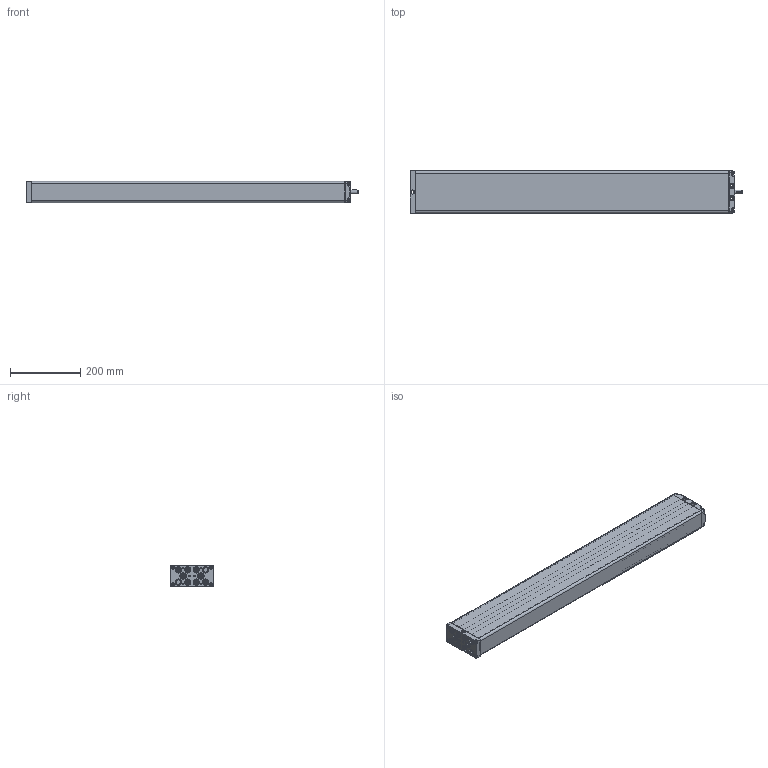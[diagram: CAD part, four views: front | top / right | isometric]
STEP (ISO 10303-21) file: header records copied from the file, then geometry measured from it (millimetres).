
FILE_DESCRIPTION(/* description */ ('Unknown'),/* implementation_level */ '2;1');
FILE_NAME(/* name */ '102.00195 Pumpe PB 8440 W',/* time_stamp */ '2016-11-24T16:58:24+01:00',/* author */ ('Unknown'),/* organization */ ('Unknown'),/* preprocessor_version */ 'ST-DEVELOPER v16.7',/* originating_system */ 'DEX',/* authorisation */ $);
FILE_SCHEMA (('AUTOMOTIVE_DESIGN {1 0 10303 214 3 1 1}'));
Products named in the file (15): 102.00195; 115.10027; 125.00031; 115.00007; 142.00021; 125.00021; 142.00013; 125.00147; 115.00140; 126.00006; 122.00040; 119.00047; 126.00036; 142.00057; 142.00017
Assembly tree (29 placements, depth 3):
  102.00195
    115.10027  x8
      125.00031
      115.00007
      142.00021
      125.00021
    142.00013  x8
    125.00147
    115.00140
      126.00006
      122.00040
    119.00047
    126.00036
    142.00057
    142.00017  x2
Bounding box: 945.5 x 120 x 60.3 mm (x, y, z)
Volume: 1103116.6 mm3; surface area: 773071.3 mm2
Topology: 40 solids, 40 shells, 2092 faces, 4790 edges, 2801 vertices
Faces by surface type: plane 723, cylinder 481, bspline 377, cone 351, torus 102, sphere 58
Full cylindrical faces by diameter (mm): 3.5 x8, 4.1 x8, 4.134 x4, 4.2 x8, 4.917 x2, 5 x8, 5.8 x4, 6 x2, 6.8 x1, 6.917 x16, 8 x17, 9 x8, 9.8 x8, 10 x5, 10.4 x1, 10.5 x4, 12.5 x8, 13 x26, 13.9 x16, 14 x1, 18 x11, 19 x1
Entity records: 59893 total; most frequent: CARTESIAN_POINT 28814, ORIENTED_EDGE 5026, DIRECTION 4365, EDGE_CURVE 2513, AXIS2_PLACEMENT_3D 1695, VERTEX_POINT 1584, FACE_BOUND 1391, EDGE_LOOP 1390
